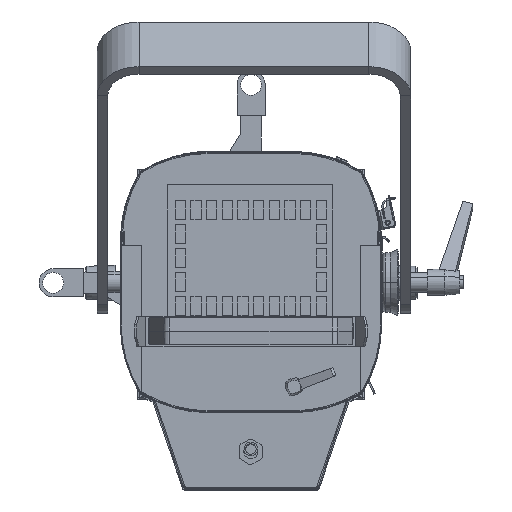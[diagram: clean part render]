
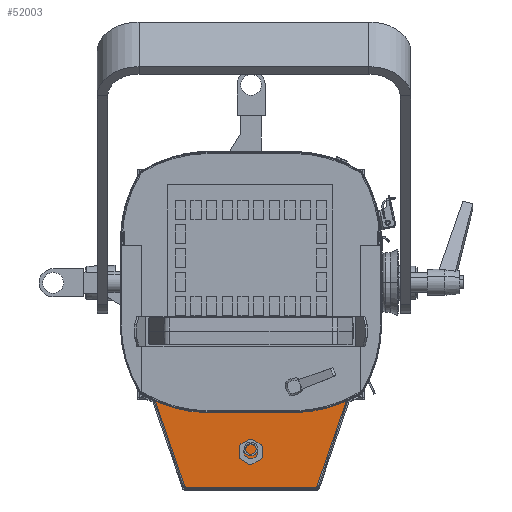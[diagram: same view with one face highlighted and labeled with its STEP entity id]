
A CAD part, top view. The second image highlights one B-rep face of the part: STEP entity #52003.
In plain terms, the highlighted planar face has unit normal (0, 0, 1).
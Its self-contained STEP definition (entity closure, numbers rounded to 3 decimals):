
#925 = VERTEX_POINT ( 'NONE', #38053 ) ;
#2106 = CARTESIAN_POINT ( 'NONE',  ( -40.095, -124.2, 569.7 ) ) ;
#2304 = CARTESIAN_POINT ( 'NONE',  ( 62.695, -195.811, 569.7 ) ) ;
#2396 = CIRCLE ( 'NONE', #25851, 124.2 ) ;
#5622 = EDGE_CURVE ( 'NONE', #925, #45222, #79587, .T. ) ;
#7702 = CARTESIAN_POINT ( 'NONE',  ( -63.273, -195.811, 569.7 ) ) ;
#7830 = DIRECTION ( 'NONE',  ( 0., 1., 0. ) ) ;
#7882 = CARTESIAN_POINT ( 'NONE',  ( -41.704, -0.01, 569.7 ) ) ;
#8332 = ORIENTED_EDGE ( 'NONE', *, *, #21856, .T. ) ;
#9190 = VERTEX_POINT ( 'NONE', #29102 ) ;
#11687 = DIRECTION ( 'NONE',  ( 1., 0., 0. ) ) ;
#11724 = VERTEX_POINT ( 'NONE', #65041 ) ;
#12199 = CARTESIAN_POINT ( 'NONE',  ( 39.905, -124.2, 569.7 ) ) ;
#12422 = DIRECTION ( 'NONE',  ( -1., 0., 0. ) ) ;
#12543 = VECTOR ( 'NONE', #73075, 1000. ) ;
#14475 = LINE ( 'NONE', #46310, #14788 ) ;
#14788 = VECTOR ( 'NONE', #44401, 1000. ) ;
#14840 = ORIENTED_EDGE ( 'NONE', *, *, #84554, .T. ) ;
#17425 = DIRECTION ( 'NONE',  ( 0., 0., 1. ) ) ;
#17463 = EDGE_LOOP ( 'NONE', ( #14840, #38642, #24720, #83757, #77012, #33485, #72637, #45715, #38538, #8332, #56957, #59314 ) ) ;
#18850 = CARTESIAN_POINT ( 'NONE',  ( -62.885, -205.005, 569.7 ) ) ;
#19309 = DIRECTION ( 'NONE',  ( 0., -1., 0. ) ) ;
#21108 = DIRECTION ( 'NONE',  ( 0., 0., 1. ) ) ;
#21856 = EDGE_CURVE ( 'NONE', #925, #62056, #39191, .T. ) ;
#23314 = EDGE_CURVE ( 'NONE', #37599, #9190, #71564, .T. ) ;
#23507 = CARTESIAN_POINT ( 'NONE',  ( -62.885, -195.811, 569.7 ) ) ;
#24545 = CARTESIAN_POINT ( 'NONE',  ( -62.885, -196.2, 569.7 ) ) ;
#24720 = ORIENTED_EDGE ( 'NONE', *, *, #44732, .F. ) ;
#25740 = CARTESIAN_POINT ( 'NONE',  ( 41.513, -0.01, 569.7 ) ) ;
#25851 = AXIS2_PLACEMENT_3D ( 'NONE', #7882, #21108, #51057 ) ;
#26577 = VECTOR ( 'NONE', #94626, 1000. ) ;
#26790 = CARTESIAN_POINT ( 'NONE',  ( 63.082, -195.811, 569.7 ) ) ;
#27240 = CARTESIAN_POINT ( 'NONE',  ( 62.695, -195.811, 569.7 ) ) ;
#29102 = CARTESIAN_POINT ( 'NONE',  ( 90.817, -114.005, 569.7 ) ) ;
#30249 = CARTESIAN_POINT ( 'NONE',  ( 49.73, -234.587, 569.7 ) ) ;
#33485 = ORIENTED_EDGE ( 'NONE', *, *, #87639, .T. ) ;
#35163 = EDGE_CURVE ( 'NONE', #45418, #66121, #65223, .T. ) ;
#37599 = VERTEX_POINT ( 'NONE', #12199 ) ;
#37730 = CARTESIAN_POINT ( 'NONE',  ( -99.72, -117.005, 569.7 ) ) ;
#38053 = CARTESIAN_POINT ( 'NONE',  ( 62.695, -196.2, 569.7 ) ) ;
#38292 = EDGE_CURVE ( 'NONE', #11724, #45222, #78182, .T. ) ;
#38538 = ORIENTED_EDGE ( 'NONE', *, *, #5622, .F. ) ;
#38642 = ORIENTED_EDGE ( 'NONE', *, *, #23314, .F. ) ;
#39191 = LINE ( 'NONE', #45101, #47851 ) ;
#39311 = VERTEX_POINT ( 'NONE', #43366 ) ;
#41776 = CARTESIAN_POINT ( 'NONE',  ( -91.008, -114.005, 569.7 ) ) ;
#43179 = LINE ( 'NONE', #58851, #12543 ) ;
#43366 = CARTESIAN_POINT ( 'NONE',  ( -91.395, -114.138, 569.7 ) ) ;
#44401 = DIRECTION ( 'NONE',  ( 0.326, -0.946, 0. ) ) ;
#44732 = EDGE_CURVE ( 'NONE', #86120, #37599, #69302, .T. ) ;
#45101 = CARTESIAN_POINT ( 'NONE',  ( 62.695, -205.005, 569.7 ) ) ;
#45222 = VERTEX_POINT ( 'NONE', #24545 ) ;
#45418 = VERTEX_POINT ( 'NONE', #51970 ) ;
#45715 = ORIENTED_EDGE ( 'NONE', *, *, #38292, .T. ) ;
#45993 = VERTEX_POINT ( 'NONE', #7702 ) ;
#46310 = CARTESIAN_POINT ( 'NONE',  ( -63.232, -195.93, 569.7 ) ) ;
#47851 = VECTOR ( 'NONE', #7830, 1000. ) ;
#48735 = VECTOR ( 'NONE', #49345, 1000. ) ;
#49217 = AXIS2_PLACEMENT_3D ( 'NONE', #23507, #86226, #11687 ) ;
#49345 = DIRECTION ( 'NONE',  ( 1., 0., 0. ) ) ;
#51057 = DIRECTION ( 'NONE',  ( 1., 0., 0. ) ) ;
#51970 = CARTESIAN_POINT ( 'NONE',  ( 91.204, -114.138, 569.7 ) ) ;
#52003 = ADVANCED_FACE ( 'NONE', ( #90675 ), #68636, .T. ) ;
#54259 = EDGE_CURVE ( 'NONE', #65688, #86120, #2396, .T. ) ;
#55608 = CARTESIAN_POINT ( 'NONE',  ( -62.885, -196.2, 569.7 ) ) ;
#55681 = DIRECTION ( 'NONE',  ( -1., 0., 0. ) ) ;
#56431 = LINE ( 'NONE', #85825, #68758 ) ;
#56957 = ORIENTED_EDGE ( 'NONE', *, *, #64930, .T. ) ;
#57661 = LINE ( 'NONE', #27240, #48735 ) ;
#58851 = CARTESIAN_POINT ( 'NONE',  ( -62.885, -195.811, 569.7 ) ) ;
#59314 = ORIENTED_EDGE ( 'NONE', *, *, #35163, .F. ) ;
#61488 = VECTOR ( 'NONE', #73520, 1000. ) ;
#62056 = VERTEX_POINT ( 'NONE', #2304 ) ;
#64930 = EDGE_CURVE ( 'NONE', #62056, #66121, #57661, .T. ) ;
#65041 = CARTESIAN_POINT ( 'NONE',  ( -62.885, -195.811, 569.7 ) ) ;
#65223 = LINE ( 'NONE', #30249, #26577 ) ;
#65688 = VERTEX_POINT ( 'NONE', #41776 ) ;
#66121 = VERTEX_POINT ( 'NONE', #26790 ) ;
#67869 = DIRECTION ( 'NONE',  ( 1., 0., 0. ) ) ;
#67899 = EDGE_CURVE ( 'NONE', #65688, #39311, #88698, .T. ) ;
#68636 = PLANE ( 'NONE',  #49217 ) ;
#68758 = VECTOR ( 'NONE', #70664, 1000. ) ;
#69302 = LINE ( 'NONE', #2106, #84016 ) ;
#70664 = DIRECTION ( 'NONE',  ( -0.946, 0.326, 0. ) ) ;
#71564 = CIRCLE ( 'NONE', #82542, 124.2 ) ;
#72637 = ORIENTED_EDGE ( 'NONE', *, *, #85568, .T. ) ;
#73075 = DIRECTION ( 'NONE',  ( 1., 0., 0. ) ) ;
#73520 = DIRECTION ( 'NONE',  ( -0.946, -0.326, 0. ) ) ;
#77012 = ORIENTED_EDGE ( 'NONE', *, *, #67899, .T. ) ;
#77164 = VECTOR ( 'NONE', #19309, 1000. ) ;
#78182 = LINE ( 'NONE', #18850, #77164 ) ;
#79587 = LINE ( 'NONE', #55608, #91482 ) ;
#82542 = AXIS2_PLACEMENT_3D ( 'NONE', #25740, #17425, #55681 ) ;
#83757 = ORIENTED_EDGE ( 'NONE', *, *, #54259, .F. ) ;
#84016 = VECTOR ( 'NONE', #67869, 1000. ) ;
#84554 = EDGE_CURVE ( 'NONE', #45418, #9190, #56431, .T. ) ;
#85568 = EDGE_CURVE ( 'NONE', #45993, #11724, #43179, .T. ) ;
#85825 = CARTESIAN_POINT ( 'NONE',  ( 99.53, -117.005, 569.7 ) ) ;
#86120 = VERTEX_POINT ( 'NONE', #90075 ) ;
#86226 = DIRECTION ( 'NONE',  ( 0., 0., 1. ) ) ;
#87639 = EDGE_CURVE ( 'NONE', #39311, #45993, #14475, .T. ) ;
#88698 = LINE ( 'NONE', #37730, #61488 ) ;
#90075 = CARTESIAN_POINT ( 'NONE',  ( -40.095, -124.2, 569.7 ) ) ;
#90675 = FACE_OUTER_BOUND ( 'NONE', #17463, .T. ) ;
#91482 = VECTOR ( 'NONE', #12422, 1000. ) ;
#94626 = DIRECTION ( 'NONE',  ( -0.326, -0.946, 0. ) ) ;
